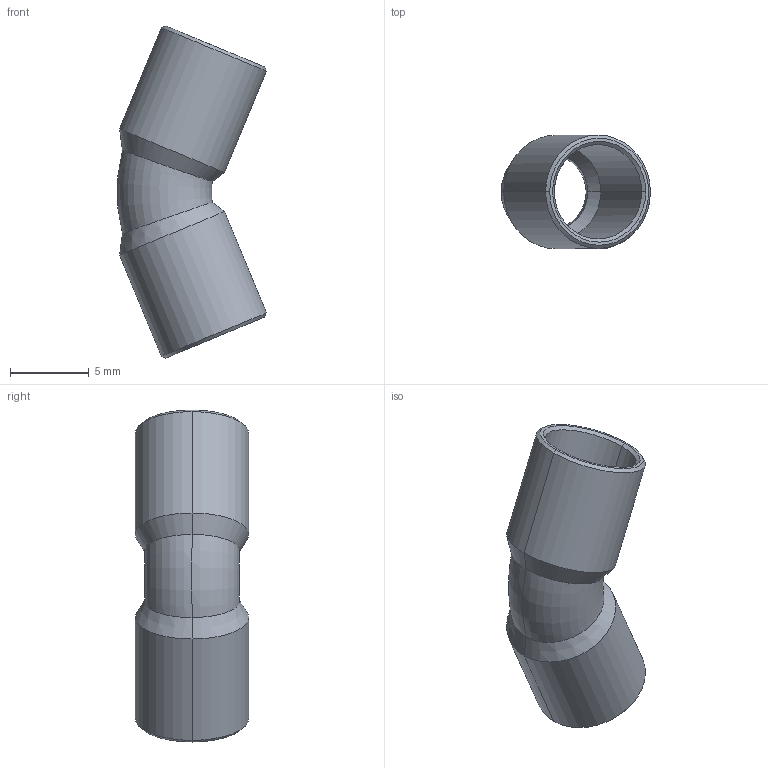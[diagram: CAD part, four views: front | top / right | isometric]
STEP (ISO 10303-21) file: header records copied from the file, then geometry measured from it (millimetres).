
FILE_DESCRIPTION((''),'2;1');
FILE_NAME('P:\Bouwmaten\z-maattekeningen 3D\5000\5040\150416.stp','2005-10-12T14:07:07',('Kris'),(''),'Autodesk Inventor 8','Autodesk Inventor 8','');
FILE_SCHEMA(('AUTOMOTIVE_DESIGN { 1 0 10303 214 1 1 1 1 }'));
Length unit declared in the file: millimetre
Products named in the file (1): 150416
Bounding box: 9.44 x 7.2 x 21.08 mm (x, y, z)
Volume: 236.7 mm3; surface area: 809.6 mm2
Topology: 1 solids, 1 shells, 30 faces, 60 edges, 32 vertices
Faces by surface type: cone 12, bspline 9, torus 4, cylinder 4, plane 1
Entity records: 1027 total; most frequent: CARTESIAN_POINT 414, DIRECTION 124, ORIENTED_EDGE 120, EDGE_CURVE 60, AXIS2_PLACEMENT_3D 50, VERTEX_POINT 32, EDGE_LOOP 32, FACE_OUTER_BOUND 30
